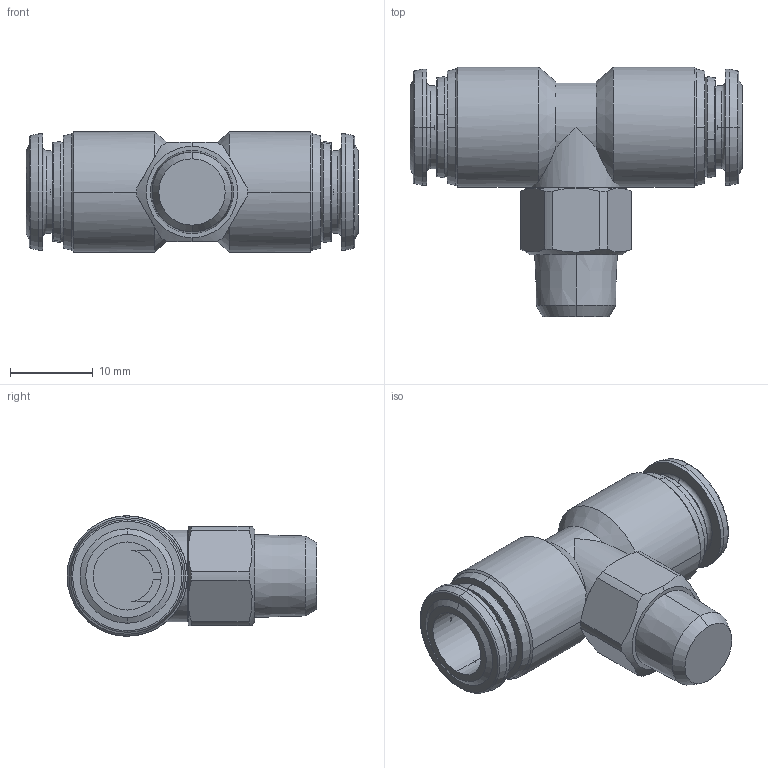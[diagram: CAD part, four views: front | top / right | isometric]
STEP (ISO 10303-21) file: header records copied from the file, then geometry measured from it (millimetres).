
FILE_DESCRIPTION (( 'STEP AP214' ), '1' );
FILE_NAME ('60210X0005.STEP', '2024-04-17T13:22:27', ( '' ), ( '' ), 'SwSTEP 2.0', 'SolidWorks 2020', '' );
FILE_SCHEMA (( 'AUTOMOTIVE_DESIGN' ));
Length unit declared in the file: millimetre
Products named in the file (1): 60210X0005
Bounding box: 40 x 30.1 x 14.5 mm (x, y, z)
Volume: 5545.9 mm3; surface area: 3944.9 mm2
Topology: 1 solids, 3 shells, 163 faces, 390 edges, 246 vertices
Faces by surface type: plane 59, cylinder 53, cone 39, torus 12
Entity records: 4956 total; most frequent: CARTESIAN_POINT 1072, DIRECTION 856, ORIENTED_EDGE 780, EDGE_CURVE 390, AXIS2_PLACEMENT_3D 350, VERTEX_POINT 246, CIRCLE 186, EDGE_LOOP 176
